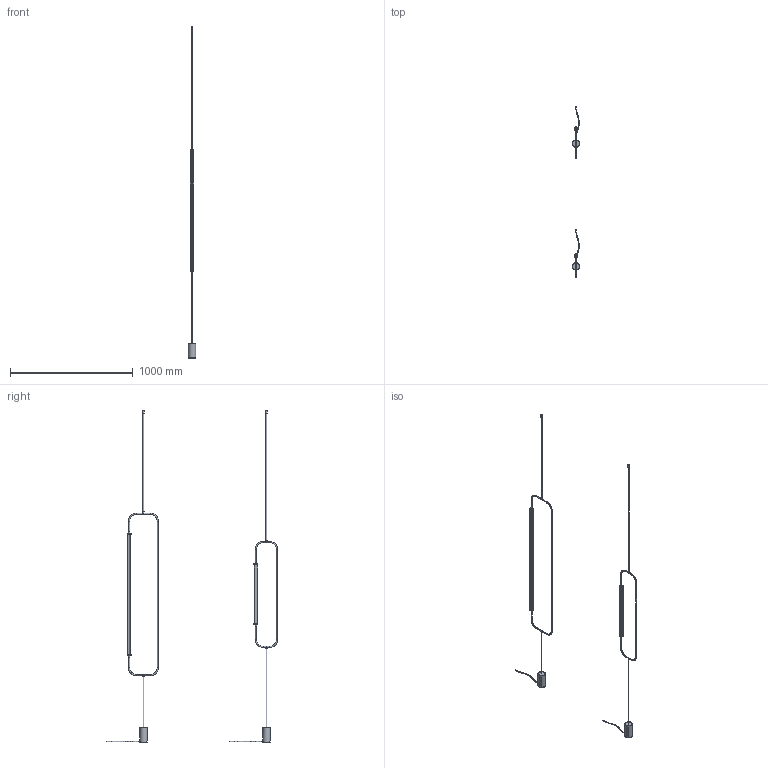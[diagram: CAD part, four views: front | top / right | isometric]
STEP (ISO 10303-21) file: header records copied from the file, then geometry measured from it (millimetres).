
FILE_DESCRIPTION(/* description */ (''),/* implementation_level */ '2;1');
FILE_NAME(/* name */ 'ASM NEW ICE APPLIQUE_GRANDE+PICCOLA DIFF.step',/* time_stamp */ '2023-03-17T00:08:45+01:00',/* author */ (''),/* organization */ (''),/* preprocessor_version */ 'ST-DEVELOPER v19.2',/* originating_system */ 'Autodesk Translation Framework v11.17.0.187',/* authorisation */ '');
FILE_SCHEMA (('AUTOMOTIVE_DESIGN { 1 0 10303 214 3 1 1 }'));
Products named in the file (29): ASM NEW ICE APPLIQUE; APPLIQUE GRANDE; MODULO GRANDE; TUBOLARE GRANDE; BARRA DIFF. GRANDE; Vetro 500; Tubo Interno Diffondente; Testata Tornita; Fissaggio Interno; RACCORDO SOSPENSIONE; DRIVER TERRA; Driver  TCI 127492BIS; APPLIQUE PICCOLA; SACLA; DRIVER TERRA_1; Driver  TCI 127492BIS_1; CALOTTA BL715-488787425; BASE BL714-488787424; Component4; Component3; Component2; MODULO PICCOLO; TUBOLARE PICCOLO; BARRA DIFF. PICCOLO; Vetro 500_1; Tubo Interno Diffondente_1; Fissaggio Interno_1; Testata Tornita_1; RACCORDO SOSPENSIONE_1
Assembly tree (40 placements, depth 5):
  ASM NEW ICE APPLIQUE
    APPLIQUE GRANDE
      MODULO GRANDE
        RACCORDO SOSPENSIONE  x2
        TUBOLARE GRANDE
        BARRA DIFF. GRANDE
          Vetro 500
          Testata Tornita  x2
          Tubo Interno Diffondente
          Fissaggio Interno  x2
      SACLA
      DRIVER TERRA
        Driver  TCI 127492BIS
          CALOTTA BL715-488787425
          BASE BL714-488787424
        Component4
        Component3
        Component2
    APPLIQUE PICCOLA
      SACLA
      DRIVER TERRA_1
        Driver  TCI 127492BIS_1
          CALOTTA BL715-488787425
          BASE BL714-488787424
        Component4
        Component3
        Component2
      MODULO PICCOLO
        TUBOLARE PICCOLO
        BARRA DIFF. PICCOLO
          Vetro 500_1
          Testata Tornita_1  x2
          Tubo Interno Diffondente_1
          Fissaggio Interno_1  x2
        RACCORDO SOSPENSIONE_1  x2
Bounding box: 60 x 1389.99 x 2700 mm (x, y, z)
Volume: 1092290.5 mm3; surface area: 812483.9 mm2
Topology: 36 solids, 36 shells, 2384 faces, 6120 edges, 3924 vertices
Faces by surface type: plane 1188, bspline 576, cylinder 564, sphere 24, cone 20, torus 12
Full cylindrical faces by diameter (mm): 1 x2, 3 x8, 4 x4, 5 x12, 7.035 x8, 8 x16, 10 x4, 12 x2, 14.5 x4, 15 x2, 16 x2, 18 x4, 18.5 x4, 32 x4, 55 x4, 56 x2, 60 x2
Entity records: 51299 total; most frequent: CARTESIAN_POINT 21571, ORIENTED_EDGE 6302, DIRECTION 5559, EDGE_CURVE 3151, VERTEX_POINT 2022, LINE 1901, VECTOR 1901, AXIS2_PLACEMENT_3D 1829
